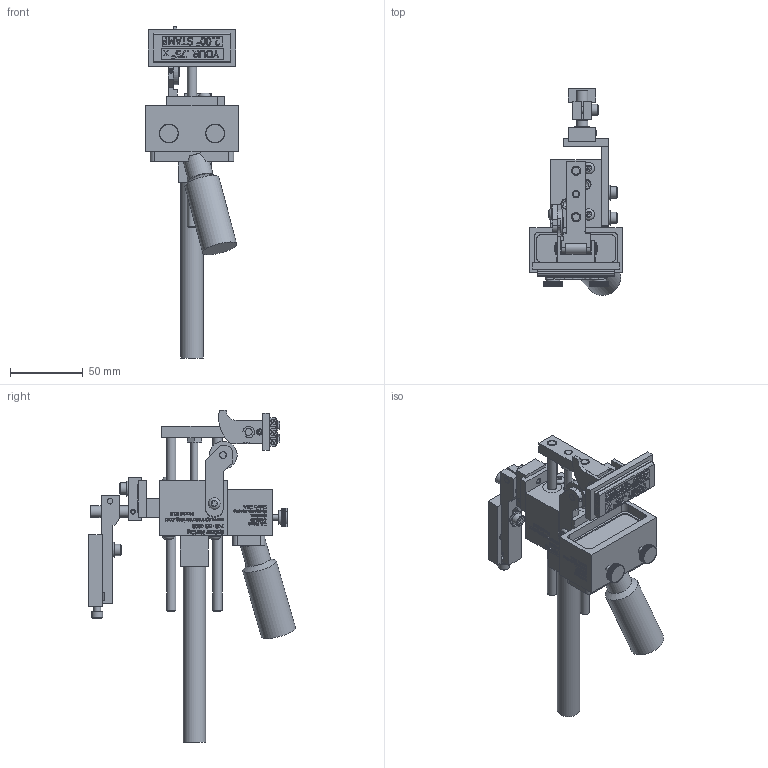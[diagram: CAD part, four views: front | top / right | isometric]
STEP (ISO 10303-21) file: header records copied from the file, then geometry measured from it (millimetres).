
FILE_DESCRIPTION((''),'2;1');
FILE_NAME('C:\Documents and Settings\Ron\My Documents\Inventor\Sprinter Drawing\Machines in Inventor\Model 616\Type\Ext Str\E1\Brkt\90\Model 616 ES1 90 deg w brkt mod2012.stp','2012-03-16T14:56:27',('Ron'),(''),'Autodesk Inventor 2011','Autodesk Inventor 2011','');
FILE_SCHEMA(('AUTOMOTIVE_DESIGN { 1 0 10303 214 1 1 1 1 }'));
Length unit declared in the file: inch
Products named in the file (44): Model 616 ES1  90 deg w brkt mod2012; 616 Frame Body; 66 Linear Bearing; Hexagon Socket Button Head Cap Screw - Inch 8 - 32 x 1/4; Hexagon Socket Head Cap Screw - Inch No. 8 - 32 UNC - 1 1/4; 616  Wheel Bractet Assy (prototype); 44 Wheel Retainer; 44 Cam Wheel; 88 Wheel Bracket Arm (prototype); Hexagon Socket Set Screw - Flat Point - Inch 4-48 UNF x 0.19; 8-32x0.25 Hexagon Socket Button Head Cap Screw ANSI/ASME B18.3; Model 616 STD Reservoir assy; 616 RESERVOIR; 66 INK BOTTLE; 616 Ink Pad; 10 Ink Resevior Lock Screw; Model 616 Mounting Bracket assy; rpb4; rpb3; rpb-1; rpb2; No. 10-24x0.88 Hexagon socket head cap screw ANSI/ASME B18.3; Type B - Plain Washer (Inch) No. 10 - narrow - Type B; 66 Machine Mounting Pivot Bracket; Pin - Hardened Ground Machine Dowel (Inch) 1/8 x 3/4; Pin - Hardened Ground Machine Dowel (Inch) 1/8 x 3/8; Model 616 Rod Carrier ES 1  90 deg Assy; 66 Rod Carrier; 44 & up Removable Marking Head Securing Post; Type A - Hexagon Socket Set Screw - Cup Point - Inch 8-32 UNC x 0.32; 66 PIVOT SHAFT; 66 PIVOT SHAFT LOCKING RING; 23 66 invert block; 616 Marking Head Plate; AS 1112 (4)  - Metric M6; 19 Rod Carrier Set Screws; 66 Spring; Hexagon Socket Flat Countersunk Head Cap Screw - Inch 6-32 UNC x 0.25; 616 baselock (sized); Model 66, E1 .25 x 5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
Assembly tree (58 placements, depth 3):
  Model 616 ES1  90 deg w brkt mod2012
    616 Frame Body
    66 Linear Bearing
    Hexagon Socket Button Head Cap Screw - Inch 8 - 32 x 1/4  x4
    Hexagon Socket Head Cap Screw - Inch No. 8 - 32 UNC - 1 1/4  x2
    616  Wheel Bractet Assy (prototype)
      44 Wheel Retainer
      44 Cam Wheel
      88 Wheel Bracket Arm (prototype)
      Hexagon Socket Set Screw - Flat Point - Inch 4-48 UNF x 0.19
    8-32x0.25 Hexagon Socket Button Head Cap Screw ANSI/ASME B18.3
    Model 616 STD Reservoir assy
      616 RESERVOIR
      66 INK BOTTLE
      616 Ink Pad
    10 Ink Resevior Lock Screw  x2
    Model 616 Mounting Bracket assy
      rpb4
      rpb3
      rpb-1
      rpb2
      No. 10-24x0.88 Hexagon socket head cap screw ANSI/ASME B18.3  x5
      Type B - Plain Washer (Inch) No. 10 - narrow - Type B  x4
      66 Machine Mounting Pivot Bracket
      Pin - Hardened Ground Machine Dowel (Inch) 1/8 x 3/4
      Pin - Hardened Ground Machine Dowel (Inch) 1/8 x 3/8
    Model 616 Rod Carrier ES 1  90 deg Assy
      66 Rod Carrier
      44 & up Removable Marking Head Securing Post
      Type A - Hexagon Socket Set Screw - Cup Point - Inch 8-32 UNC x 0.32
      66 PIVOT SHAFT
      66 PIVOT SHAFT LOCKING RING  x2
      23 66 invert block
      616 Marking Head Plate
      AS 1112 (4)  - Metric M6
      19 Rod Carrier Set Screws  x2
      66 Spring
      Hexagon Socket Flat Countersunk Head Cap Screw - Inch 6-32 UNC x 0.25
      616 baselock (sized)
      Model 66, E1 .25 x 5  x2
      Hexagon Socket Set Screw - Flat Point - Inch 8-32 UNC x 0.32
      616 baselock STAMP
    E1 90 deg
    10-32 PORTS DECAL
Bounding box: 63.5 x 141.96 x 227.94 mm (x, y, z)
Volume: 238180.2 mm3; surface area: 113207.5 mm2
Topology: 428 solids, 428 shells, 6557 faces, 16096 edges, 9983 vertices
Faces by surface type: plane 4543, bspline 1343, cylinder 571, cone 77, torus 23
Full cylindrical faces by diameter (mm): 1.575 x1, 2.261 x1, 2.54 x2, 2.642 x1, 2.845 x1, 3.175 x4, 3.2 x1, 3.302 x14, 3.505 x1, 3.556 x1, 3.962 x12, 4.064 x2, 4.166 x11, 4.496 x1, 4.521 x1, 4.699 x3, 4.75 x4, 4.775 x2, 4.826 x8, 4.864 x2, 4.917 x1, 5.08 x1, 5.156 x7, 5.359 x1, 5.556 x1, 6.325 x2, 6.35 x7, 6.426 x1, 6.604 x1, 6.68 x1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
Entity records: 157221 total; most frequent: CARTESIAN_POINT 46614, ORIENTED_EDGE 24640, DIRECTION 17779, EDGE_CURVE 12320, VECTOR 8781, LINE 8781, VERTEX_POINT 7926, EDGE_LOOP 5522
